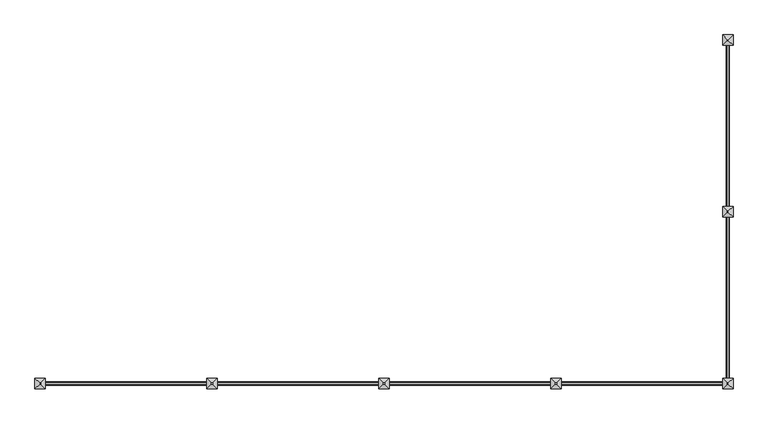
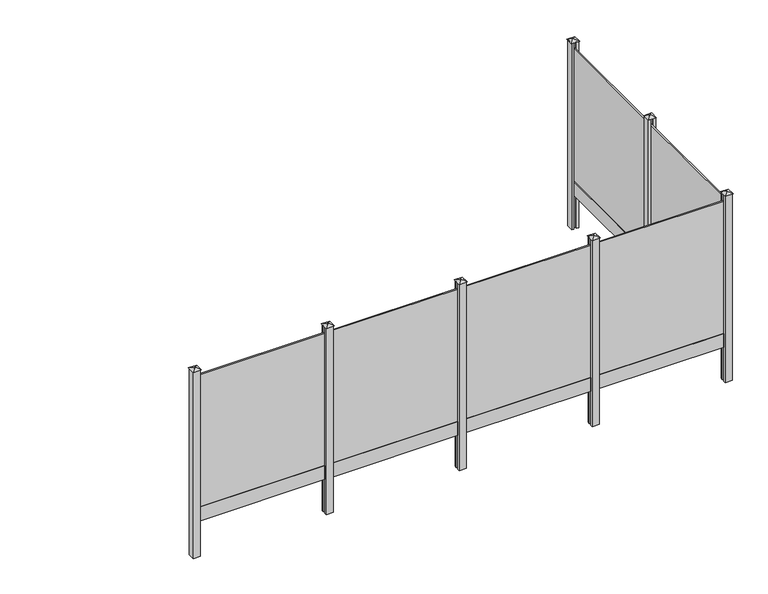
"""IFC4 building model written with IfcOpenShell, lengths in millimetres: railing geometry, Mehat - Railing - Plaque de Soubassement - Pour clôture bois - 180.5x20x3.5/1.7 cm."""

from ifc_helpers import new_model, si_unit, frame, origin, origin_with_axes, place, context, project, spatial, polyline, outline, extrude, faceted_brep, source, transform, mapped, element, save


def railing_a63429a0(model_context):
    return source(origin(), model_context, "Body", "SolidModel", [
        extrude(outline(polyline([(-14103.7483484, -1522.4943936), (-14120.7483484, -1522.4943936), (-14120.7483484, 282.5056064), (-14103.7483484, 282.5056064), (-14103.7483484, -1522.4943936)])), frame((0.0, 0.0, 200.0), z_axis=(0.0, 0.0, 1.0), x_axis=(1.0, 0.0, 0.0)), (0.0, 0.0, 1.0), 1950.0),
        extrude(outline(polyline([(-14129.7483484, 282.5056064), (-14112.7483484, 282.5056064), (-14094.7483484, 257.5056064), (-14094.7483484, -1497.4943936), (-14112.7483484, -1522.4943936), (-14129.7483484, -1522.4943936), (-14129.7483484, 282.5056064)])), origin_with_axes(), (0.0, 0.0, 1.0), 200.0),
        extrude(outline(polyline([(-14062.2483484, -1597.4943936), (-14094.7483484, -1597.4943936), (-14094.7483484, -1572.4943936), (-14129.7483484, -1572.4943936), (-14129.7483484, -1597.4943936), (-14162.2483484, -1597.4943936), (-14162.2483484, -1497.4943936), (-14129.7483484, -1497.4943936), (-14129.7483484, -1522.4943936), (-14094.7483484, -1522.4943936), (-14094.7483484, -1497.4943936), (-14062.2483484, -1497.4943936), (-14062.2483484, -1597.4943936)])), frame((0.0, 0.0, -500.0), z_axis=(0.0, 0.0, 1.0), x_axis=(1.0, 0.0, 0.0)), (0.0, 0.0, 1.0), 2750.0),
        faceted_brep([(-14118.6528945, -1541.1443936, 2275.4), (-14118.6528945, -1553.8443936, 2275.4), (-14105.9528945, -1553.8443936, 2275.4), (-14105.9528945, -1541.1443936, 2275.4), (-14168.5983484, -1491.1443936, 2250.0), (-14055.8983484, -1491.1443936, 2250.0), (-14055.8983484, -1603.8443936, 2250.0), (-14168.5983484, -1603.8443936, 2250.0)], [[[0, 1, 2, 3]], [[4, 5, 6, 7]], [[4, 0, 3, 5]], [[5, 3, 2, 6]], [[6, 2, 1, 7]], [[7, 1, 0, 4]]]),
        extrude(outline(polyline([(-14103.7483484, -3377.4943936), (-14120.7483484, -3377.4943936), (-14120.7483484, -1572.4943936), (-14103.7483484, -1572.4943936), (-14103.7483484, -3377.4943936)])), frame((0.0, 0.0, 200.0), z_axis=(0.0, 0.0, 1.0), x_axis=(1.0, 0.0, 0.0)), (0.0, 0.0, 1.0), 1950.0),
        extrude(outline(polyline([(-14129.7483484, -1572.4943936), (-14112.7483484, -1572.4943936), (-14094.7483484, -1597.4943936), (-14094.7483484, -3352.4943936), (-14112.7483484, -3377.4943936), (-14129.7483484, -3377.4943936), (-14129.7483484, -1572.4943936)])), origin_with_axes(), (0.0, 0.0, 1.0), 200.0),
        extrude(outline(polyline([(-15942.2483484, -3410.9943936), (-15942.2483484, -3393.9943936), (-14137.2483484, -3393.9943936), (-14137.2483484, -3410.9943936), (-15942.2483484, -3410.9943936)])), frame((0.0, 0.0, 200.0), z_axis=(0.0, 0.0, 1.0), x_axis=(1.0, 0.0, 0.0)), (0.0, 0.0, 1.0), 1950.0),
        extrude(outline(polyline([(-14137.2483484, -3384.9943936), (-14137.2483484, -3401.9943936), (-14162.2483484, -3419.9943936), (-15917.2483484, -3419.9943936), (-15942.2483484, -3401.9943936), (-15942.2483484, -3384.9943936), (-14137.2483484, -3384.9943936)])), origin_with_axes(), (0.0, 0.0, 1.0), 200.0),
        extrude(outline(polyline([(-16017.2483484, -3452.4943936), (-16017.2483484, -3419.9943936), (-15992.2483484, -3419.9943936), (-15992.2483484, -3384.9943936), (-16017.2483484, -3384.9943936), (-16017.2483484, -3352.4943936), (-15917.2483484, -3352.4943936), (-15917.2483484, -3384.9943936), (-15942.2483484, -3384.9943936), (-15942.2483484, -3419.9943936), (-15917.2483484, -3419.9943936), (-15917.2483484, -3452.4943936), (-16017.2483484, -3452.4943936)])), frame((0.0, 0.0, -500.0), z_axis=(0.0, 0.0, 1.0), x_axis=(1.0, 0.0, 0.0)), (0.0, 0.0, 1.0), 2750.0),
        faceted_brep([(-15960.8983484, -3396.0898475, 2275.4), (-15973.5983484, -3396.0898475, 2275.4), (-15973.5983484, -3408.7898475, 2275.4), (-15960.8983484, -3408.7898475, 2275.4), (-15910.8983484, -3346.1443936, 2250.0), (-15910.8983484, -3458.8443936, 2250.0), (-16023.5983484, -3458.8443936, 2250.0), (-16023.5983484, -3346.1443936, 2250.0)], [[[0, 1, 2, 3]], [[4, 5, 6, 7]], [[4, 0, 3, 5]], [[5, 3, 2, 6]], [[6, 2, 1, 7]], [[7, 1, 0, 4]]]),
        extrude(outline(polyline([(-17797.2483484, -3410.9943936), (-17797.2483484, -3393.9943936), (-15992.2483484, -3393.9943936), (-15992.2483484, -3410.9943936), (-17797.2483484, -3410.9943936)])), frame((0.0, 0.0, 200.0), z_axis=(0.0, 0.0, 1.0), x_axis=(1.0, 0.0, 0.0)), (0.0, 0.0, 1.0), 1950.0),
        extrude(outline(polyline([(-15992.2483484, -3384.9943936), (-15992.2483484, -3401.9943936), (-16017.2483484, -3419.9943936), (-17772.2483484, -3419.9943936), (-17797.2483484, -3401.9943936), (-17797.2483484, -3384.9943936), (-15992.2483484, -3384.9943936)])), origin_with_axes(), (0.0, 0.0, 1.0), 200.0),
        extrude(outline(polyline([(-17872.2483484, -3452.4943936), (-17872.2483484, -3419.9943936), (-17847.2483484, -3419.9943936), (-17847.2483484, -3384.9943936), (-17872.2483484, -3384.9943936), (-17872.2483484, -3352.4943936), (-17772.2483484, -3352.4943936), (-17772.2483484, -3384.9943936), (-17797.2483484, -3384.9943936), (-17797.2483484, -3419.9943936), (-17772.2483484, -3419.9943936), (-17772.2483484, -3452.4943936), (-17872.2483484, -3452.4943936)])), frame((0.0, 0.0, -500.0), z_axis=(0.0, 0.0, 1.0), x_axis=(1.0, 0.0, 0.0)), (0.0, 0.0, 1.0), 2750.0),
        faceted_brep([(-17815.8983484, -3396.0898475, 2275.4), (-17828.5983484, -3396.0898475, 2275.4), (-17828.5983484, -3408.7898475, 2275.4), (-17815.8983484, -3408.7898475, 2275.4), (-17765.8983484, -3346.1443936, 2250.0), (-17765.8983484, -3458.8443936, 2250.0), (-17878.5983484, -3458.8443936, 2250.0), (-17878.5983484, -3346.1443936, 2250.0)], [[[0, 1, 2, 3]], [[4, 5, 6, 7]], [[4, 0, 3, 5]], [[5, 3, 2, 6]], [[6, 2, 1, 7]], [[7, 1, 0, 4]]]),
        extrude(outline(polyline([(-19652.2483484, -3410.9943936), (-19652.2483484, -3393.9943936), (-17847.2483484, -3393.9943936), (-17847.2483484, -3410.9943936), (-19652.2483484, -3410.9943936)])), frame((0.0, 0.0, 200.0), z_axis=(0.0, 0.0, 1.0), x_axis=(1.0, 0.0, 0.0)), (0.0, 0.0, 1.0), 1950.0),
        extrude(outline(polyline([(-17847.2483484, -3384.9943936), (-17847.2483484, -3401.9943936), (-17872.2483484, -3419.9943936), (-19627.2483484, -3419.9943936), (-19652.2483484, -3401.9943936), (-19652.2483484, -3384.9943936), (-17847.2483484, -3384.9943936)])), origin_with_axes(), (0.0, 0.0, 1.0), 200.0),
        extrude(outline(polyline([(-19727.2483484, -3452.4943936), (-19727.2483484, -3419.9943936), (-19702.2483484, -3419.9943936), (-19702.2483484, -3384.9943936), (-19727.2483484, -3384.9943936), (-19727.2483484, -3352.4943936), (-19627.2483484, -3352.4943936), (-19627.2483484, -3384.9943936), (-19652.2483484, -3384.9943936), (-19652.2483484, -3419.9943936), (-19627.2483484, -3419.9943936), (-19627.2483484, -3452.4943936), (-19727.2483484, -3452.4943936)])), frame((0.0, 0.0, -500.0), z_axis=(0.0, 0.0, 1.0), x_axis=(1.0, 0.0, 0.0)), (0.0, 0.0, 1.0), 2750.0),
        faceted_brep([(-19670.8983484, -3396.0898475, 2275.4), (-19683.5983484, -3396.0898475, 2275.4), (-19683.5983484, -3408.7898475, 2275.4), (-19670.8983484, -3408.7898475, 2275.4), (-19620.8983484, -3346.1443936, 2250.0), (-19620.8983484, -3458.8443936, 2250.0), (-19733.5983484, -3458.8443936, 2250.0), (-19733.5983484, -3346.1443936, 2250.0)], [[[0, 1, 2, 3]], [[4, 5, 6, 7]], [[4, 0, 3, 5]], [[5, 3, 2, 6]], [[6, 2, 1, 7]], [[7, 1, 0, 4]]]),
        extrude(outline(polyline([(-21507.2483484, -3410.9943936), (-21507.2483484, -3393.9943936), (-19702.2483484, -3393.9943936), (-19702.2483484, -3410.9943936), (-21507.2483484, -3410.9943936)])), frame((0.0, 0.0, 200.0), z_axis=(0.0, 0.0, 1.0), x_axis=(1.0, 0.0, 0.0)), (0.0, 0.0, 1.0), 1950.0),
        extrude(outline(polyline([(-19702.2483484, -3384.9943936), (-19702.2483484, -3401.9943936), (-19727.2483484, -3419.9943936), (-21482.2483484, -3419.9943936), (-21507.2483484, -3401.9943936), (-21507.2483484, -3384.9943936), (-19702.2483484, -3384.9943936)])), origin_with_axes(), (0.0, 0.0, 1.0), 200.0),
        extrude(outline(polyline([(-14162.2483484, -3452.4943936), (-14162.2483484, -3419.9943936), (-14137.2483484, -3419.9943936), (-14137.2483484, -3384.9943936), (-14162.2483484, -3384.9943936), (-14162.2483484, -3352.4943936), (-14129.7483484, -3352.4943936), (-14129.7483484, -3377.4943936), (-14094.7483484, -3377.4943936), (-14094.7483484, -3352.4943936), (-14062.2483484, -3352.4943936), (-14062.2483484, -3452.4943936), (-14162.2483484, -3452.4943936)])), frame((0.0, 0.0, -500.0), z_axis=(0.0, 0.0, 1.0), x_axis=(1.0, 0.0, 0.0)), (0.0, 0.0, 1.0), 2750.0),
        faceted_brep([(-14105.8983484, -3396.0898475, 2275.4), (-14118.5983484, -3396.0898475, 2275.4), (-14118.5983484, -3408.7898475, 2275.4), (-14105.8983484, -3408.7898475, 2275.4), (-14055.8983484, -3346.1443936, 2250.0), (-14055.8983484, -3458.8443936, 2250.0), (-14168.5983484, -3458.8443936, 2250.0), (-14168.5983484, -3346.1443936, 2250.0)], [[[0, 1, 2, 3]], [[4, 5, 6, 7]], [[4, 0, 3, 5]], [[5, 3, 2, 6]], [[6, 2, 1, 7]], [[7, 1, 0, 4]]]),
        extrude(outline(polyline([(-14062.2483484, 257.5056064), (-14094.7483484, 257.5056064), (-14094.7483484, 282.5056064), (-14129.7483484, 282.5056064), (-14129.7483484, 257.5056064), (-14162.2483484, 257.5056064), (-14162.2483484, 357.5056064), (-14062.2483484, 357.5056064), (-14062.2483484, 257.5056064)])), frame((0.0, 0.0, -500.0), z_axis=(0.0, 0.0, 1.0), x_axis=(1.0, 0.0, 0.0)), (0.0, 0.0, 1.0), 2750.0),
        faceted_brep([(-14118.6528945, 313.8556064, 2275.4), (-14118.6528945, 301.1556064, 2275.4), (-14105.9528945, 301.1556064, 2275.4), (-14105.9528945, 313.8556064, 2275.4), (-14168.5983484, 363.8556064, 2250.0), (-14055.8983484, 363.8556064, 2250.0), (-14055.8983484, 251.1556064, 2250.0), (-14168.5983484, 251.1556064, 2250.0)], [[[0, 1, 2, 3]], [[4, 5, 6, 7]], [[4, 0, 3, 5]], [[5, 3, 2, 6]], [[6, 2, 1, 7]], [[7, 1, 0, 4]]]),
        extrude(outline(polyline([(-21582.2483484, -3452.4943936), (-21582.2483484, -3352.4943936), (-21482.2483484, -3352.4943936), (-21482.2483484, -3384.9943936), (-21507.2483484, -3384.9943936), (-21507.2483484, -3419.9943936), (-21482.2483484, -3419.9943936), (-21482.2483484, -3452.4943936), (-21582.2483484, -3452.4943936)])), frame((0.0, 0.0, -500.0), z_axis=(0.0, 0.0, 1.0), x_axis=(1.0, 0.0, 0.0)), (0.0, 0.0, 1.0), 2750.0),
        faceted_brep([(-21525.8983484, -3396.0898475, 2275.4), (-21538.5983484, -3396.0898475, 2275.4), (-21538.5983484, -3408.7898475, 2275.4), (-21525.8983484, -3408.7898475, 2275.4), (-21475.8983484, -3346.1443936, 2250.0), (-21475.8983484, -3458.8443936, 2250.0), (-21588.5983484, -3458.8443936, 2250.0), (-21588.5983484, -3346.1443936, 2250.0)], [[[0, 1, 2, 3]], [[4, 5, 6, 7]], [[4, 0, 3, 5]], [[5, 3, 2, 6]], [[6, 2, 1, 7]], [[7, 1, 0, 4]]]),
    ])


if __name__ == "__main__":
    model = new_model("IFC4")
    model_context = context("Model", 3, world=origin())
    ifc_project = project(units=[si_unit("LENGTHUNIT", "METRE", prefix="MILLI")], contexts=[model_context])
    site = spatial("IfcSite", under=ifc_project)
    building = spatial("IfcBuilding", under=site)
    placement = place(None, origin())
    railing_shape = railing_a63429a0(model_context)
    element("IfcRailing", 1, ObjectType="Mehat - Railing - Plaque de Soubassement - Pour clôture bois - 180.5x20x3.5/1.7 cm", at=placement, inside=building, context=model_context, shape_type="MappedRepresentation", body=[
        mapped(railing_shape, transform((0.0, 0.0, 0.0), x_axis=(1.0, 0.0, 0.0), y_axis=(0.0, 1.0, 0.0), z_axis=(0.0, 0.0, 1.0))),
    ])
    save(model, "model.ifc")
